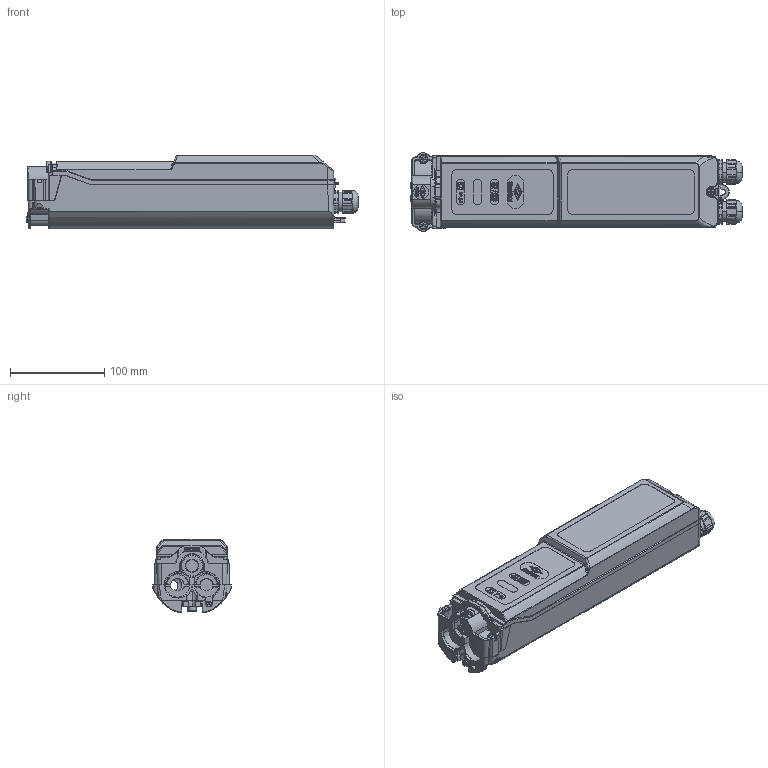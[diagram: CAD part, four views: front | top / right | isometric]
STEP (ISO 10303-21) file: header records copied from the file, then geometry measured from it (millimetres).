
FILE_DESCRIPTION (( 'STEP AP203' ), '1' );
FILE_NAME ('3D - HSW2535-M20 Außenkontur.STEP', '2019-06-28T09:24:21', ( '' ), ( '' ), 'SwSTEP 2.0', 'SolidWorks 2013', '' );
FILE_SCHEMA (( 'CONFIG_CONTROL_DESIGN' ));
Products named in the file (1): 3D - HSW2535-M20 Außenkontur
Bounding box: 353.13 x 83.5 x 78.61 mm (x, y, z)
Surface area: 130311.6 mm2 (no closed solid volume)
Topology: 0 solids, 27 shells, 1294 faces, 4619 edges, 3267 vertices
Faces by surface type: plane 578, cylinder 381, bspline 145, cone 95, torus 85, sphere 10
Entity records: 60434 total; most frequent: CARTESIAN_POINT 23348, ORIENTED_EDGE 7536, DIRECTION 6957, EDGE_CURVE 4609, VERTEX_POINT 3267, LINE 2645, VECTOR 2645, AXIS2_PLACEMENT_3D 2156
